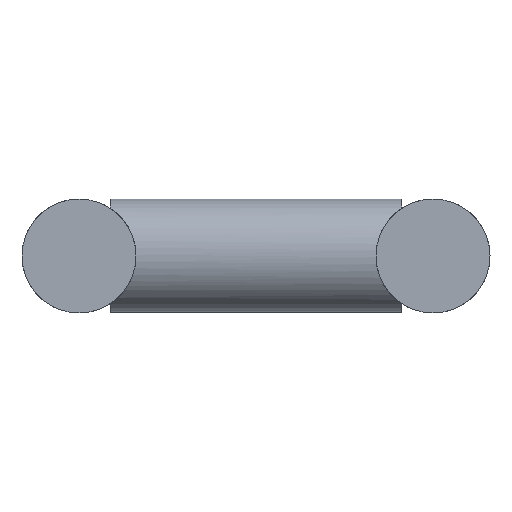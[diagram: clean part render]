
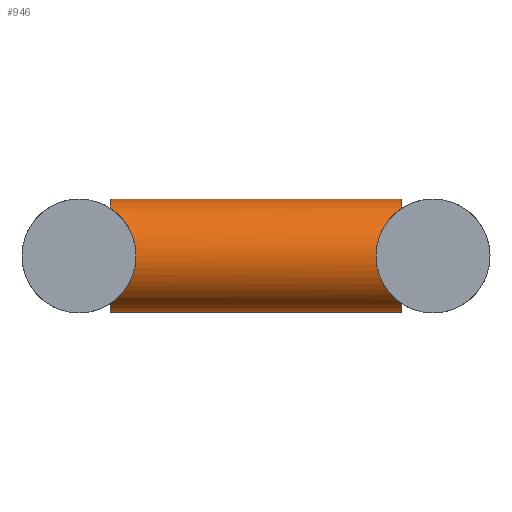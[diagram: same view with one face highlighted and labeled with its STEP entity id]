
A CAD part, left-side view. The second image highlights one B-rep face of the part: STEP entity #946.
In plain terms, the highlighted cylindrical face has radius 24.15 mm (diameter 48.3 mm), a full revolution.
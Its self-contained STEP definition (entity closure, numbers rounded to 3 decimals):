
#39=FACE_BOUND('',#218,.T.);
#101=ELLIPSE('',#1050,34.153,24.15);
#102=ELLIPSE('',#1051,34.153,24.15);
#103=ELLIPSE('',#1052,34.153,24.15);
#104=ELLIPSE('',#1053,34.153,24.15);
#114=CYLINDRICAL_SURFACE('',#1049,24.15);
#155=FACE_OUTER_BOUND('',#217,.T.);
#217=EDGE_LOOP('',(#679,#680,#681,#682));
#218=EDGE_LOOP('',(#683,#684,#685,#686));
#307=CIRCLE('',#1042,24.15);
#308=CIRCLE('',#1044,24.15);
#309=CIRCLE('',#1046,24.15);
#310=CIRCLE('',#1048,24.15);
#427=VERTEX_POINT('',#1520);
#428=VERTEX_POINT('',#1521);
#429=VERTEX_POINT('',#1525);
#430=VERTEX_POINT('',#1526);
#431=VERTEX_POINT('',#1530);
#432=VERTEX_POINT('',#1531);
#433=VERTEX_POINT('',#1535);
#434=VERTEX_POINT('',#1536);
#536=EDGE_CURVE('',#427,#428,#307,.T.);
#538=EDGE_CURVE('',#429,#430,#308,.T.);
#540=EDGE_CURVE('',#431,#432,#309,.T.);
#542=EDGE_CURVE('',#433,#434,#310,.T.);
#543=EDGE_CURVE('',#430,#427,#101,.T.);
#544=EDGE_CURVE('',#428,#429,#102,.T.);
#545=EDGE_CURVE('',#434,#431,#103,.T.);
#546=EDGE_CURVE('',#432,#433,#104,.T.);
#679=ORIENTED_EDGE('',*,*,#543,.F.);
#680=ORIENTED_EDGE('',*,*,#538,.F.);
#681=ORIENTED_EDGE('',*,*,#544,.F.);
#682=ORIENTED_EDGE('',*,*,#536,.F.);
#683=ORIENTED_EDGE('',*,*,#545,.F.);
#684=ORIENTED_EDGE('',*,*,#542,.F.);
#685=ORIENTED_EDGE('',*,*,#546,.F.);
#686=ORIENTED_EDGE('',*,*,#540,.F.);
#946=ADVANCED_FACE('',(#155,#39),#114,.T.);
#1042=AXIS2_PLACEMENT_3D('',#1523,#1260,#1261);
#1044=AXIS2_PLACEMENT_3D('',#1528,#1265,#1266);
#1046=AXIS2_PLACEMENT_3D('',#1533,#1270,#1271);
#1048=AXIS2_PLACEMENT_3D('',#1538,#1275,#1276);
#1049=AXIS2_PLACEMENT_3D('',#1539,#1277,#1278);
#1050=AXIS2_PLACEMENT_3D('',#1540,#1279,#1280);
#1051=AXIS2_PLACEMENT_3D('',#1541,#1281,#1282);
#1052=AXIS2_PLACEMENT_3D('',#1542,#1283,#1284);
#1053=AXIS2_PLACEMENT_3D('',#1543,#1285,#1286);
#1260=DIRECTION('center_axis',(0.,1.,0.));
#1261=DIRECTION('ref_axis',(1.,0.,0.));
#1265=DIRECTION('center_axis',(0.,1.,0.));
#1266=DIRECTION('ref_axis',(1.,0.,0.));
#1270=DIRECTION('center_axis',(0.,-1.,0.));
#1271=DIRECTION('ref_axis',(1.,0.,0.));
#1275=DIRECTION('center_axis',(0.,-1.,0.));
#1276=DIRECTION('ref_axis',(1.,0.,0.));
#1277=DIRECTION('center_axis',(0.,-1.,0.));
#1278=DIRECTION('ref_axis',(1.,0.,0.));
#1279=DIRECTION('center_axis',(-0.707,0.707,0.));
#1280=DIRECTION('ref_axis',(0.707,0.707,0.));
#1281=DIRECTION('center_axis',(0.707,0.707,0.));
#1282=DIRECTION('ref_axis',(0.707,-0.707,0.));
#1283=DIRECTION('center_axis',(0.707,-0.707,0.));
#1284=DIRECTION('ref_axis',(0.707,0.707,0.));
#1285=DIRECTION('center_axis',(-0.707,-0.707,0.));
#1286=DIRECTION('ref_axis',(0.707,-0.707,0.));
#1520=CARTESIAN_POINT('',(63.,61.85,20.256));
#1521=CARTESIAN_POINT('',(89.3,61.85,20.256));
#1523=CARTESIAN_POINT('Origin',(76.15,61.85,0.));
#1525=CARTESIAN_POINT('',(89.3,61.85,-20.256));
#1526=CARTESIAN_POINT('',(63.,61.85,-20.256));
#1528=CARTESIAN_POINT('Origin',(76.15,61.85,0.));
#1530=CARTESIAN_POINT('',(89.3,-61.85,20.256));
#1531=CARTESIAN_POINT('',(63.,-61.85,20.256));
#1533=CARTESIAN_POINT('Origin',(76.15,-61.85,0.));
#1535=CARTESIAN_POINT('',(63.,-61.85,-20.256));
#1536=CARTESIAN_POINT('',(89.3,-61.85,-20.256));
#1538=CARTESIAN_POINT('Origin',(76.15,-61.85,0.));
#1539=CARTESIAN_POINT('Origin',(76.15,61.85,0.));
#1540=CARTESIAN_POINT('Origin',(76.15,75.,0.));
#1541=CARTESIAN_POINT('Origin',(76.15,75.,0.));
#1542=CARTESIAN_POINT('Origin',(76.15,-75.,0.));
#1543=CARTESIAN_POINT('Origin',(76.15,-75.,0.));
